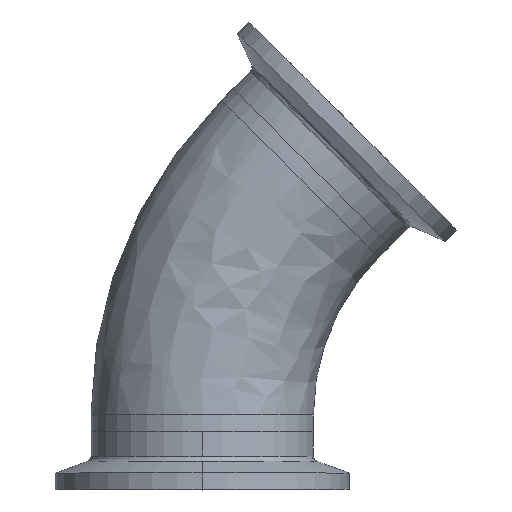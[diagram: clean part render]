
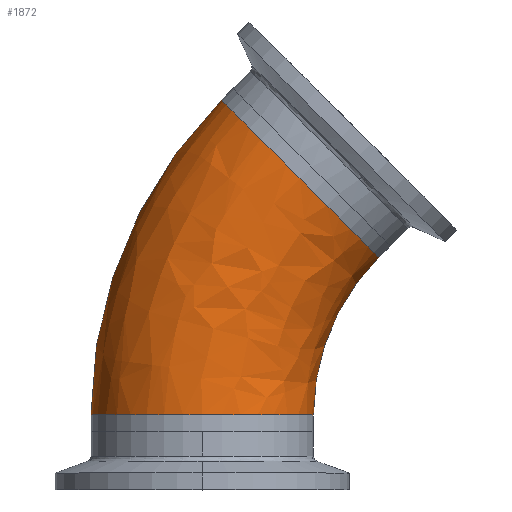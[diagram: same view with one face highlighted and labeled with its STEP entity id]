
A CAD part, top view. The second image highlights one B-rep face of the part: STEP entity #1872.
In plain terms, the highlighted free-form (B-spline) face has degree [3, 3] with [4, 4] control points.
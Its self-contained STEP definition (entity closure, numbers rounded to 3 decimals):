
#43 = DIRECTION ( 'NONE',  ( -0.707, 0.707, 0. ) ) ;
#191 = CARTESIAN_POINT ( 'NONE',  ( 19.05, 13.06, 0. ) ) ;
#210 = DIRECTION ( 'NONE',  ( -1., 0., 0. ) ) ;
#250 = CARTESIAN_POINT ( 'NONE',  ( 19.05, 2.807, 0. ) ) ;
#313 = EDGE_CURVE ( 'NONE', #1210, #2048, #2929, .T. ) ;
#358 = DIRECTION ( 'NONE',  ( 0., 0., -1. ) ) ;
#391 = CARTESIAN_POINT ( 'NONE',  ( 57.2, 2.807, 0. ) ) ;
#428 = CARTESIAN_POINT ( 'NONE',  ( -11.208, 42.233, 0. ) ) ;
#440 = CARTESIAN_POINT ( 'NONE',  ( 30.224, 29.783, 0. ) ) ;
#679 = CARTESIAN_POINT ( 'NONE',  ( -19.05, 2.807, 38.1 ) ) ;
#696 = CIRCLE ( 'NONE', #2787, 19.05 ) ;
#905 = DIRECTION ( 'NONE',  ( 0., 1., 0. ) ) ;
#922 = CARTESIAN_POINT ( 'NONE',  ( -11.208, 42.233, 38.1 ) ) ;
#973 = EDGE_CURVE ( 'NONE', #2484, #2095, #1724, .T. ) ;
#1145 = ORIENTED_EDGE ( 'NONE', *, *, #2977, .T. ) ;
#1174 = CARTESIAN_POINT ( 'NONE',  ( 19.05, 2.807, 38.1 ) ) ;
#1210 = VERTEX_POINT ( 'NONE', #1350 ) ;
#1331 = CARTESIAN_POINT ( 'NONE',  ( 57.2, 2.807, 0. ) ) ;
#1350 = CARTESIAN_POINT ( 'NONE',  ( -19.05, 2.807, 0. ) ) ;
#1351 = AXIS2_PLACEMENT_3D ( 'NONE', #3139, #1554, #43 ) ;
#1429 = CARTESIAN_POINT ( 'NONE',  ( 22.974, 22.533, 38.1 ) ) ;
#1461 =( BOUNDED_SURFACE ( )  B_SPLINE_SURFACE ( 3, 3, ( 
 ( #3011, #3252, #428, #2217 ),
 ( #679, #2489, #922, #2767 ),
 ( #1174, #3022, #1429, #3264 ),
 ( #1702, #191, #1957, #440 ) ),
 .UNSPECIFIED., .F., .F., .F. ) 
 B_SPLINE_SURFACE_WITH_KNOTS ( ( 4, 4 ),
 ( 4, 4 ),
 ( 0., 1. ),
 ( 0., 1. ),
 .UNSPECIFIED. ) 
 GEOMETRIC_REPRESENTATION_ITEM ( )  RATIONAL_B_SPLINE_SURFACE ( (
 ( 1., 0.949, 0.949, 1.),
 ( 0.333, 0.316, 0.316, 0.333),
 ( 0.333, 0.316, 0.316, 0.333),
 ( 1., 0.949, 0.949, 1.) ) ) 
 REPRESENTATION_ITEM ( '' )  SURFACE ( )  );
#1554 = DIRECTION ( 'NONE',  ( -0.707, -0.707, 0. ) ) ;
#1702 = CARTESIAN_POINT ( 'NONE',  ( 19.05, 2.807, 0. ) ) ;
#1724 = CIRCLE ( 'NONE', #3262, 38.15 ) ;
#1758 = ORIENTED_EDGE ( 'NONE', *, *, #2741, .T. ) ;
#1872 = ADVANCED_FACE ( 'NONE', ( #2089 ), #1461, .T. ) ;
#1957 = CARTESIAN_POINT ( 'NONE',  ( 22.974, 22.533, 0. ) ) ;
#1960 = ORIENTED_EDGE ( 'NONE', *, *, #313, .F. ) ;
#2048 = VERTEX_POINT ( 'NONE', #3320 ) ;
#2089 = FACE_OUTER_BOUND ( 'NONE', #2245, .T. ) ;
#2095 = VERTEX_POINT ( 'NONE', #2392 ) ;
#2184 = AXIS2_PLACEMENT_3D ( 'NONE', #1331, #2188, #2404 ) ;
#2188 = DIRECTION ( 'NONE',  ( 0., 0., -1. ) ) ;
#2217 = CARTESIAN_POINT ( 'NONE',  ( 3.283, 56.724, 0. ) ) ;
#2245 = EDGE_LOOP ( 'NONE', ( #1145, #2549, #1758, #1960 ) ) ;
#2392 = CARTESIAN_POINT ( 'NONE',  ( 30.224, 29.783, 0. ) ) ;
#2404 = DIRECTION ( 'NONE',  ( -1., 0., 0. ) ) ;
#2473 = CARTESIAN_POINT ( 'NONE',  ( 0., 2.807, 0. ) ) ;
#2476 = CIRCLE ( 'NONE', #1351, 19.05 ) ;
#2484 = VERTEX_POINT ( 'NONE', #250 ) ;
#2489 = CARTESIAN_POINT ( 'NONE',  ( -19.05, 23.3, 38.1 ) ) ;
#2549 = ORIENTED_EDGE ( 'NONE', *, *, #973, .T. ) ;
#2741 = EDGE_CURVE ( 'NONE', #2095, #2048, #2476, .T. ) ;
#2749 = DIRECTION ( 'NONE',  ( -1., 0., 0. ) ) ;
#2767 = CARTESIAN_POINT ( 'NONE',  ( 3.283, 56.724, 38.1 ) ) ;
#2787 = AXIS2_PLACEMENT_3D ( 'NONE', #2473, #905, #2749 ) ;
#2929 = CIRCLE ( 'NONE', #2184, 76.25 ) ;
#2977 = EDGE_CURVE ( 'NONE', #1210, #2484, #696, .T. ) ;
#3011 = CARTESIAN_POINT ( 'NONE',  ( -19.05, 2.807, 0. ) ) ;
#3022 = CARTESIAN_POINT ( 'NONE',  ( 19.05, 13.06, 38.1 ) ) ;
#3139 = CARTESIAN_POINT ( 'NONE',  ( 16.753, 43.253, 0. ) ) ;
#3252 = CARTESIAN_POINT ( 'NONE',  ( -19.05, 23.3, 0. ) ) ;
#3262 = AXIS2_PLACEMENT_3D ( 'NONE', #391, #358, #210 ) ;
#3264 = CARTESIAN_POINT ( 'NONE',  ( 30.224, 29.783, 38.1 ) ) ;
#3320 = CARTESIAN_POINT ( 'NONE',  ( 3.283, 56.724, 0. ) ) ;
